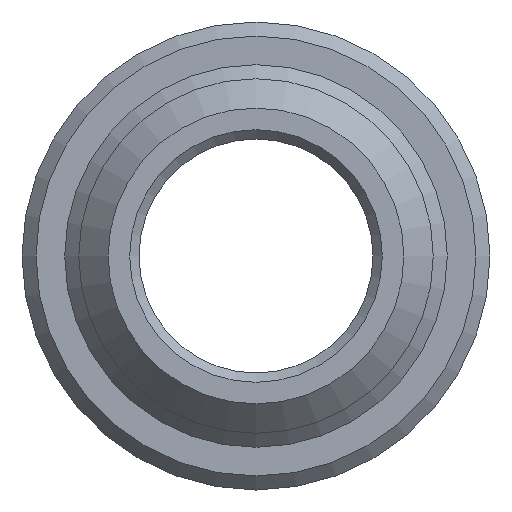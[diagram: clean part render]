
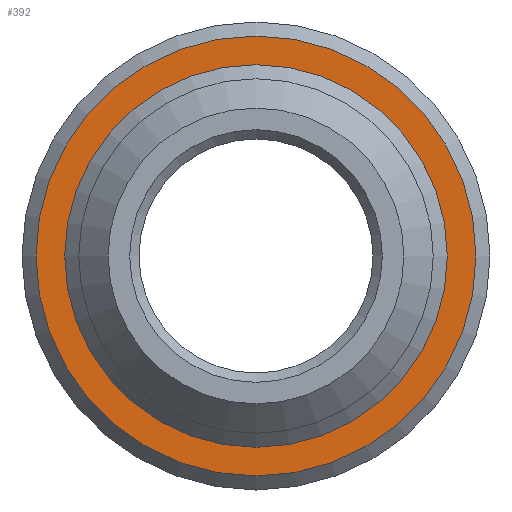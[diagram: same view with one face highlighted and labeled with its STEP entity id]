
A CAD part, front view. The second image highlights one B-rep face of the part: STEP entity #392.
In plain terms, the highlighted planar face has unit normal (0, -1, 0).
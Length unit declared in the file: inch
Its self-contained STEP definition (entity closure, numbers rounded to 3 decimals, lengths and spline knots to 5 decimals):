
#33=FACE_BOUND('',#86,.T.);
#44=PLANE('',#443);
#60=FACE_OUTER_BOUND('',#85,.T.);
#85=EDGE_LOOP('',(#316));
#86=EDGE_LOOP('',(#317));
#158=CIRCLE('',#442,0.20439);
#159=CIRCLE('',#444,0.235);
#195=VERTEX_POINT('',#678);
#196=VERTEX_POINT('',#682);
#243=EDGE_CURVE('',#195,#195,#158,.T.);
#244=EDGE_CURVE('',#196,#196,#159,.T.);
#316=ORIENTED_EDGE('',*,*,#244,.F.);
#317=ORIENTED_EDGE('',*,*,#243,.F.);
#392=ADVANCED_FACE('',(#60,#33),#44,.T.);
#442=AXIS2_PLACEMENT_3D('',#680,#536,#537);
#443=AXIS2_PLACEMENT_3D('',#681,#538,#539);
#444=AXIS2_PLACEMENT_3D('',#683,#540,#541);
#536=DIRECTION('center_axis',(0.,-1.,0.));
#537=DIRECTION('ref_axis',(0.,0.,-1.));
#538=DIRECTION('center_axis',(0.,-1.,0.));
#539=DIRECTION('ref_axis',(0.,0.,-1.));
#540=DIRECTION('center_axis',(0.,1.,0.));
#541=DIRECTION('ref_axis',(0.,0.,1.));
#678=CARTESIAN_POINT('',(0.,12.25,0.20439));
#680=CARTESIAN_POINT('Origin',(0.,12.25,0.));
#681=CARTESIAN_POINT('Origin',(0.,12.25,-0.203));
#682=CARTESIAN_POINT('',(0.,12.25,-0.235));
#683=CARTESIAN_POINT('Origin',(0.,12.25,0.));
